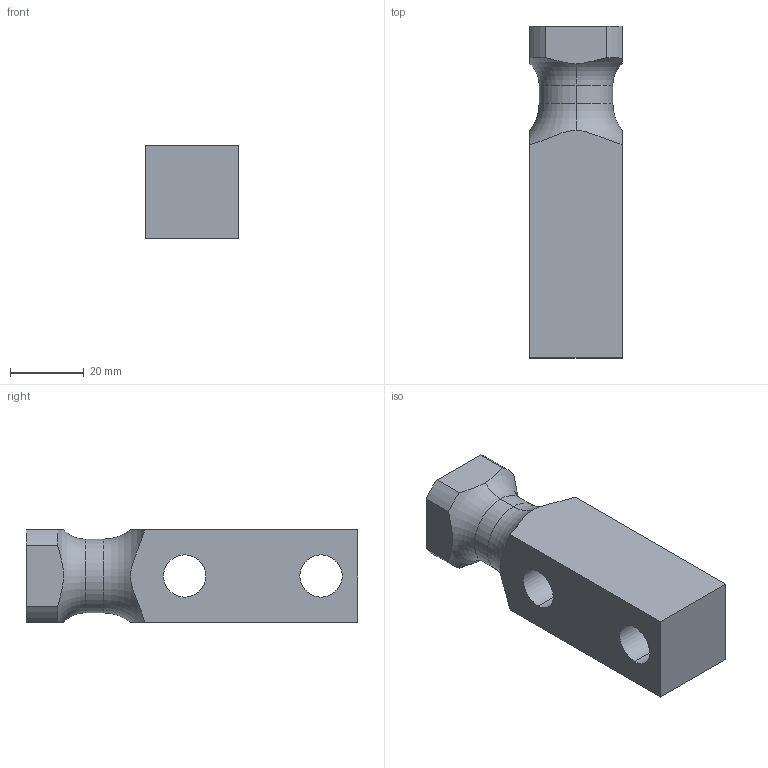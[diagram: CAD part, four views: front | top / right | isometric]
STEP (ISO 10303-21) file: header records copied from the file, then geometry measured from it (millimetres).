
FILE_DESCRIPTION(('CATIA V5 STEP Exchange'),'2;1');
FILE_NAME('C:\Users\Raffaele\Desktop\3D X SITO CF\PERNI -STAFFE SOLLEVAMENTO\395V\GSB_OILLESS_C10104025090\STEP-2.03\395V-04-025-090.stp','2019-07-03T12:22:51+00:00',('none'),('none'),'CATIA Version 5 Release 20 GA (IN-10)','CATIA V5 STEP AP203','none');
FILE_SCHEMA(('CONFIG_CONTROL_DESIGN'));
Length unit declared in the file: millimetre
Products named in the file (1): 395V-04-025-090
Bounding box: 25 x 90 x 25 mm (x, y, z)
Volume: 42507.5 mm3; surface area: 11466.6 mm2
Topology: 1 solids, 1 shells, 30 faces, 102 edges, 76 vertices
Faces by surface type: cylinder 14, plane 12, torus 4
Entity records: 1412 total; most frequent: CARTESIAN_POINT 509, ORIENTED_EDGE 204, DIRECTION 134, EDGE_CURVE 102, VERTEX_POINT 76, AXIS2_PLACEMENT_3D 75, CIRCLE 44, EDGE_LOOP 36
